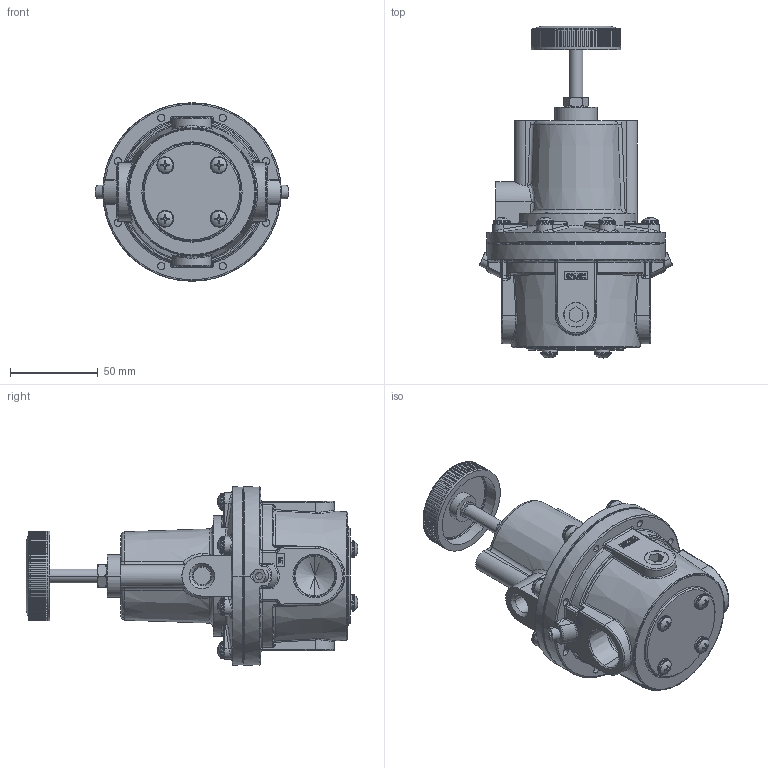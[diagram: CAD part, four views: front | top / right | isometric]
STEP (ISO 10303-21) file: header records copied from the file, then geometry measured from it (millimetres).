
FILE_DESCRIPTION((''),'2;1');
FILE_NAME('7000-EA','2020-12-15T',('SYSTEM'),(''),'PRO/ENGINEER BY PARAMETRIC TECHNOLOGY CORPORATION, 2016360','PRO/ENGINEER BY PARAMETRIC TECHNOLOGY CORPORATION, 2016360','');
FILE_SCHEMA(('AUTOMOTIVE_DESIGN { 1 0 10303 214 1 1 1 1 }'));
Products named in the file (1): 7000-EA
Bounding box: 110.38 x 189.07 x 101.6 mm (x, y, z)
Volume: 568232.1 mm3; surface area: 67917.1 mm2
Topology: 2 solids, 14 shells, 1638 faces, 4621 edges, 3016 vertices
Faces by surface type: plane 718, cylinder 270, torus 244, cone 170, bspline 107, extrusion 94, sphere 35
Entity records: 75698 total; most frequent: CARTESIAN_POINT 18789, ORIENTED_EDGE 9114, DIRECTION 7609, PRESENTATION_STYLE_ASSIGNMENT 4943, STYLED_ITEM 4559, CURVE_STYLE 4557, EDGE_CURVE 4557, VERTEX_POINT 3016
